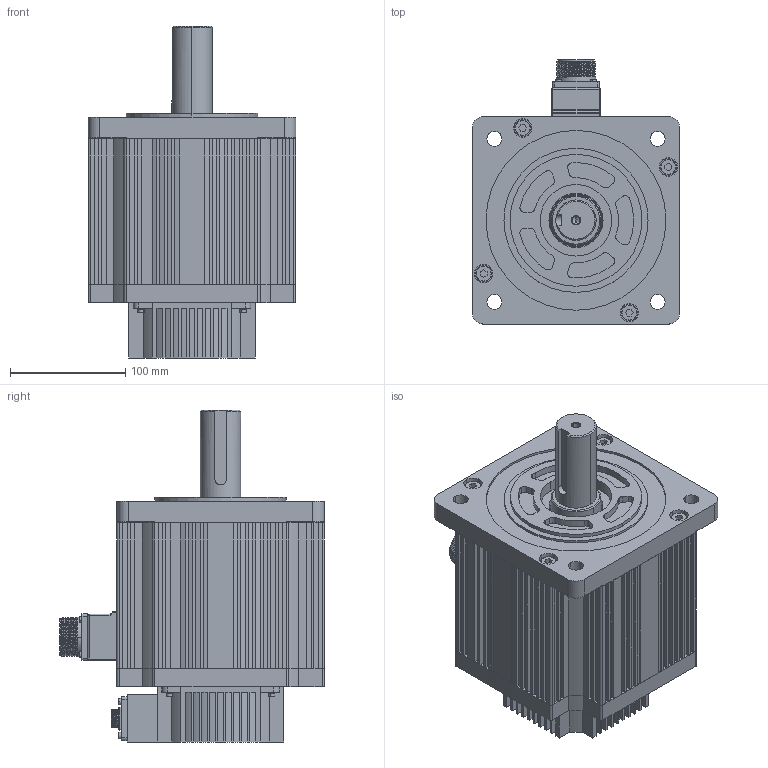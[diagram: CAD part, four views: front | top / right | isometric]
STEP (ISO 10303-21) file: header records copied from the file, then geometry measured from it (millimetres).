
FILE_DESCRIPTION (( 'STEP AP203' ), '1' );
FILE_NAME ('VM5-M18D-4R415-D1.STEP', '2019-02-23T02:17:40', ( 'ZSM' ), ( '' ), 'SwSTEP 2.0', 'SolidWorks 2014', '' );
FILE_SCHEMA (( 'CONFIG_CONTROL_DESIGN' ));
Length unit declared in the file: millimetre
Products named in the file (17): D18B102N1-; D13B111A; D18B102P; GB T848-2002 ±3; GX2-D18B101E_D18B101E2; GB／T70．1-2000内六角圆柱头螺钉M8×20; GB／T70．1-2000内六角圆柱头螺钉M3×10; D18B1003E_D18B1003E2; 晤鎢ん裔啣 D18B102AB; GB／T70．1-2000内六角圆柱头螺钉M3×6; D18B103G_D18B103G2; CMS3102A22-22P-Z; GB／T848-2002小垫圈A级8×1．6; D18B102M1; 瑤諾脣芛 16M-9H; D18B1004G_D18B1004G2; VM5-M18D-4R415-D1
Assembly tree (54 placements, depth 3):
  VM5-M18D-4R415-D1
    D18B1003E_D18B1003E2
      GX2-D18B101E_D18B101E2
    D18B1004G_D18B1004G2
      D18B103G_D18B103G2
      D18B102M1
    D18B102N1-
    D13B111A
    D18B102P
    GB T848-2002 ±3  x9
    GB／T70．1-2000内六角圆柱头螺钉M3×10  x11
    GB／T70．1-2000内六角圆柱头螺钉M3×6  x7
    GB／T848-2002小垫圈A级8×1．6  x8
    GB／T70．1-2000内六角圆柱头螺钉M8×20  x8
    晤鎢ん裔啣 D18B102AB
    CMS3102A22-22P-Z
    瑤諾脣芛 16M-9H
Bounding box: 180 x 229.6 x 288 mm (x, y, z)
Volume: 2249639.8 mm3; surface area: 575004.9 mm2
Topology: 52 solids, 52 shells, 1860 faces, 4559 edges, 2924 vertices
Faces by surface type: plane 853, cylinder 713, torus 162, cone 110, sphere 14, bspline 8
Entity records: 45994 total; most frequent: CARTESIAN_POINT 9993, DIRECTION 7213, ORIENTED_EDGE 6758, EDGE_CURVE 3379, AXIS2_PLACEMENT_3D 2611, VERTEX_POINT 2198, VECTOR 1991, LINE 1991
